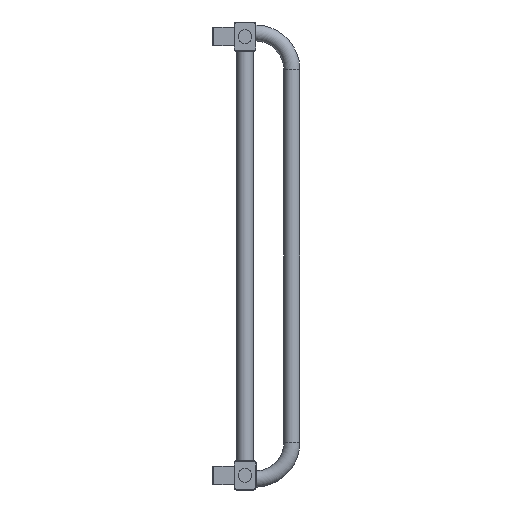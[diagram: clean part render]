
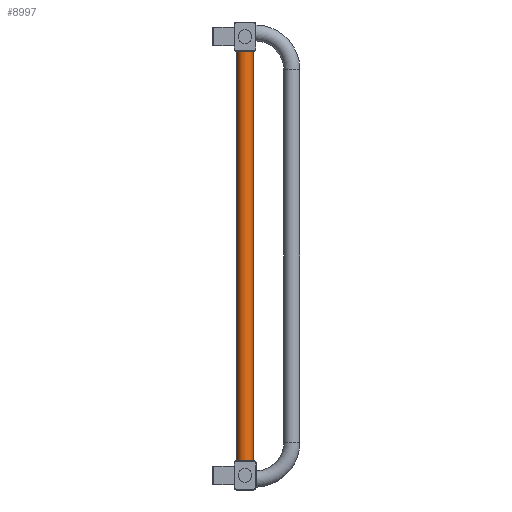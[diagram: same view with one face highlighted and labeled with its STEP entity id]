
A CAD part, left-side view. The second image highlights one B-rep face of the part: STEP entity #8997.
In plain terms, the highlighted cylindrical face has radius 11 mm (diameter 22 mm), a full revolution.
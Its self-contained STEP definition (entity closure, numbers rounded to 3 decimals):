
#8970=CARTESIAN_POINT('',(30.,0.,600.0));
#8971=DIRECTION('',(0.,0.,-1.0));
#8972=DIRECTION('',(0.866,-0.499,0.));
#8973=AXIS2_PLACEMENT_3D('',#8970,#8971,#8972);
#8974=CYLINDRICAL_SURFACE('',#8973,11.);
#8975=CARTESIAN_POINT('',(20.47,5.494,40.0));
#8976=VERTEX_POINT('',#8975);
#8977=CARTESIAN_POINT('',(30.,0.,40.0));
#8978=DIRECTION('',(0.,0.,1.0));
#8979=DIRECTION('',(0.866,-0.499,0.));
#8980=AXIS2_PLACEMENT_3D('',#8977,#8978,#8979);
#8981=CIRCLE('',#8980,11.);
#8982=EDGE_CURVE('',#8976,#8976,#8981,.T.);
#8983=ORIENTED_EDGE('',*,*,#8982,.T.);
#8984=EDGE_LOOP('',(#8983));
#8985=FACE_OUTER_BOUND('',#8984,.T.);
#8986=CARTESIAN_POINT('',(20.47,5.494,600.0));
#8987=VERTEX_POINT('',#8986);
#8988=CARTESIAN_POINT('',(30.,0.,600.0));
#8989=DIRECTION('',(0.,0.,1.0));
#8990=DIRECTION('',(0.866,-0.499,0.));
#8991=AXIS2_PLACEMENT_3D('',#8988,#8989,#8990);
#8992=CIRCLE('',#8991,11.);
#8993=EDGE_CURVE('',#8987,#8987,#8992,.T.);
#8994=ORIENTED_EDGE('',*,*,#8993,.F.);
#8995=EDGE_LOOP('',(#8994));
#8996=FACE_BOUND('',#8995,.T.);
#8997=ADVANCED_FACE('',(#8985,#8996),#8974,.T.);
